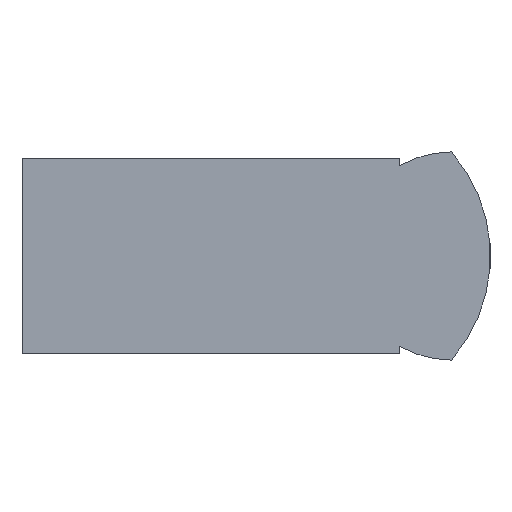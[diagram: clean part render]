
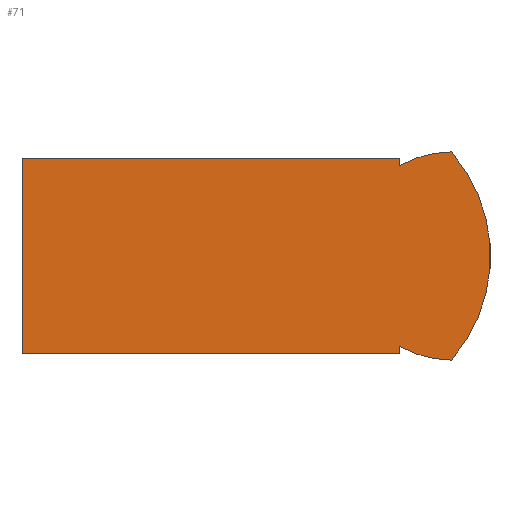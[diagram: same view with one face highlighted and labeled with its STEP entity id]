
A CAD part, left-side view. The second image highlights one B-rep face of the part: STEP entity #71.
In plain terms, the highlighted planar face has unit normal (-1, 0, 0).
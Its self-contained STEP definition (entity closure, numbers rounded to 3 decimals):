
#71 = ADVANCED_FACE( '', ( #145 ), #146, .F. );
#145 = FACE_OUTER_BOUND( '', #220, .T. );
#146 = PLANE( '', #221 );
#220 = EDGE_LOOP( '', ( #353, #354, #355, #356, #357, #358, #359, #360 ) );
#221 = AXIS2_PLACEMENT_3D( '', #361, #362, #363 );
#353 = ORIENTED_EDGE( '', *, *, #476, .F. );
#354 = ORIENTED_EDGE( '', *, *, #465, .T. );
#355 = ORIENTED_EDGE( '', *, *, #477, .T. );
#356 = ORIENTED_EDGE( '', *, *, #446, .F. );
#357 = ORIENTED_EDGE( '', *, *, #470, .F. );
#358 = ORIENTED_EDGE( '', *, *, #478, .T. );
#359 = ORIENTED_EDGE( '', *, *, #479, .F. );
#360 = ORIENTED_EDGE( '', *, *, #460, .F. );
#361 = CARTESIAN_POINT( '', ( -6., -28.416, 0. ) );
#362 = DIRECTION( '', ( 1., 0., 0. ) );
#363 = DIRECTION( '', ( 0., 0., -1. ) );
#446 = EDGE_CURVE( '', #529, #530, #531, .T. );
#460 = EDGE_CURVE( '', #549, #550, #551, .T. );
#465 = EDGE_CURVE( '', #558, #559, #560, .T. );
#470 = EDGE_CURVE( '', #564, #529, #566, .T. );
#476 = EDGE_CURVE( '', #558, #549, #573, .T. );
#477 = EDGE_CURVE( '', #559, #530, #574, .T. );
#478 = EDGE_CURVE( '', #564, #575, #576, .T. );
#479 = EDGE_CURVE( '', #550, #575, #577, .T. );
#529 = VERTEX_POINT( '', #643 );
#530 = VERTEX_POINT( '', #644 );
#531 = LINE( '', #645, #646 );
#549 = VERTEX_POINT( '', #672 );
#550 = VERTEX_POINT( '', #673 );
#551 = CIRCLE( '', #674, 12.167 );
#558 = VERTEX_POINT( '', #683 );
#559 = VERTEX_POINT( '', #684 );
#560 = LINE( '', #685, #686 );
#564 = VERTEX_POINT( '', #692 );
#566 = LINE( '', #695, #696 );
#573 = CIRCLE( '', #703, 8. );
#574 = LINE( '', #704, #705 );
#575 = VERTEX_POINT( '', #706 );
#576 = LINE( '', #707, #708 );
#577 = CIRCLE( '', #709, 8. );
#643 = CARTESIAN_POINT( '', ( -6., 0., -7.5 ) );
#644 = CARTESIAN_POINT( '', ( -6., 0., 7.5 ) );
#645 = CARTESIAN_POINT( '', ( -6., 0., -7.5 ) );
#646 = VECTOR( '', #746, 1000. );
#672 = CARTESIAN_POINT( '', ( -6., -33., 8. ) );
#673 = CARTESIAN_POINT( '', ( -6., -33., -8. ) );
#674 = AXIS2_PLACEMENT_3D( '', #758, #759, #760 );
#683 = CARTESIAN_POINT( '', ( -6., -29., 6.928 ) );
#684 = CARTESIAN_POINT( '', ( -6., -29., 7.5 ) );
#685 = CARTESIAN_POINT( '', ( -6., -29., -7.5 ) );
#686 = VECTOR( '', #766, 1000. );
#692 = CARTESIAN_POINT( '', ( -6., -29., -7.5 ) );
#695 = CARTESIAN_POINT( '', ( -6., -29., -7.5 ) );
#696 = VECTOR( '', #770, 1000. );
#703 = AXIS2_PLACEMENT_3D( '', #777, #778, #779 );
#704 = CARTESIAN_POINT( '', ( -6., -29., 7.5 ) );
#705 = VECTOR( '', #780, 1000. );
#706 = CARTESIAN_POINT( '', ( -6., -29., -6.928 ) );
#707 = CARTESIAN_POINT( '', ( -6., -29., -7.5 ) );
#708 = VECTOR( '', #781, 1000. );
#709 = AXIS2_PLACEMENT_3D( '', #782, #783, #784 );
#746 = DIRECTION( '', ( 0., 0., 1. ) );
#758 = CARTESIAN_POINT( '', ( -6., -23.833, 0. ) );
#759 = DIRECTION( '', ( 1., 0., 0. ) );
#760 = DIRECTION( '', ( 0., 0., -1. ) );
#766 = DIRECTION( '', ( 0., 0., 1. ) );
#770 = DIRECTION( '', ( 0., 1., 0. ) );
#777 = CARTESIAN_POINT( '', ( -6., -33., 0. ) );
#778 = DIRECTION( '', ( 1., 0., 0. ) );
#779 = DIRECTION( '', ( 0., 0., -1. ) );
#780 = DIRECTION( '', ( 0., 1., 0. ) );
#781 = DIRECTION( '', ( 0., 0., 1. ) );
#782 = CARTESIAN_POINT( '', ( -6., -33., 0. ) );
#783 = DIRECTION( '', ( 1., 0., 0. ) );
#784 = DIRECTION( '', ( 0., 0., -1. ) );
